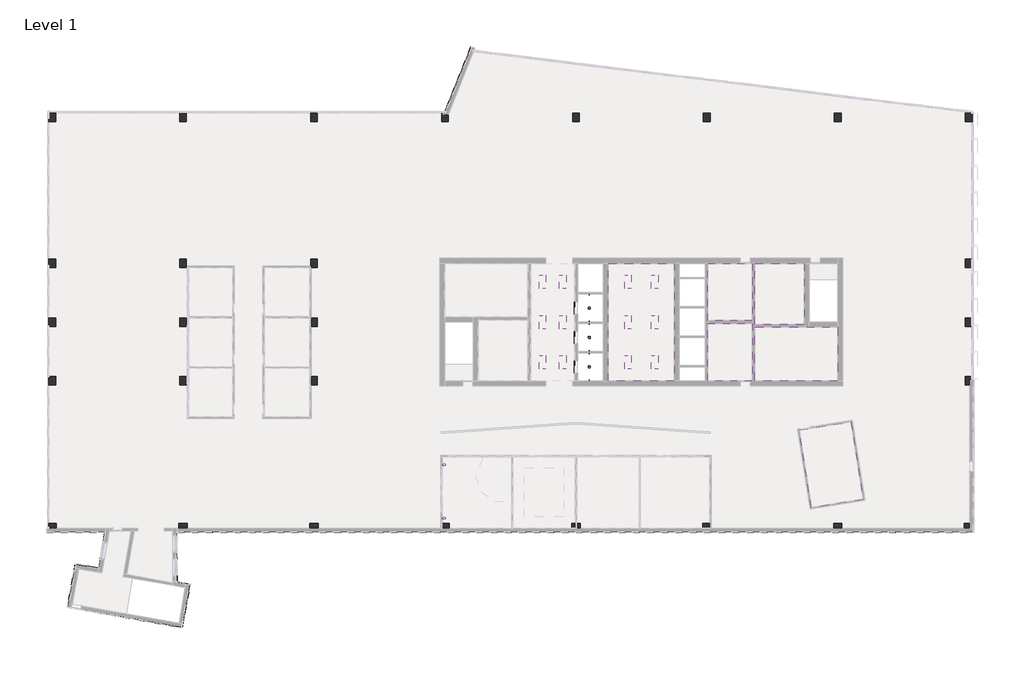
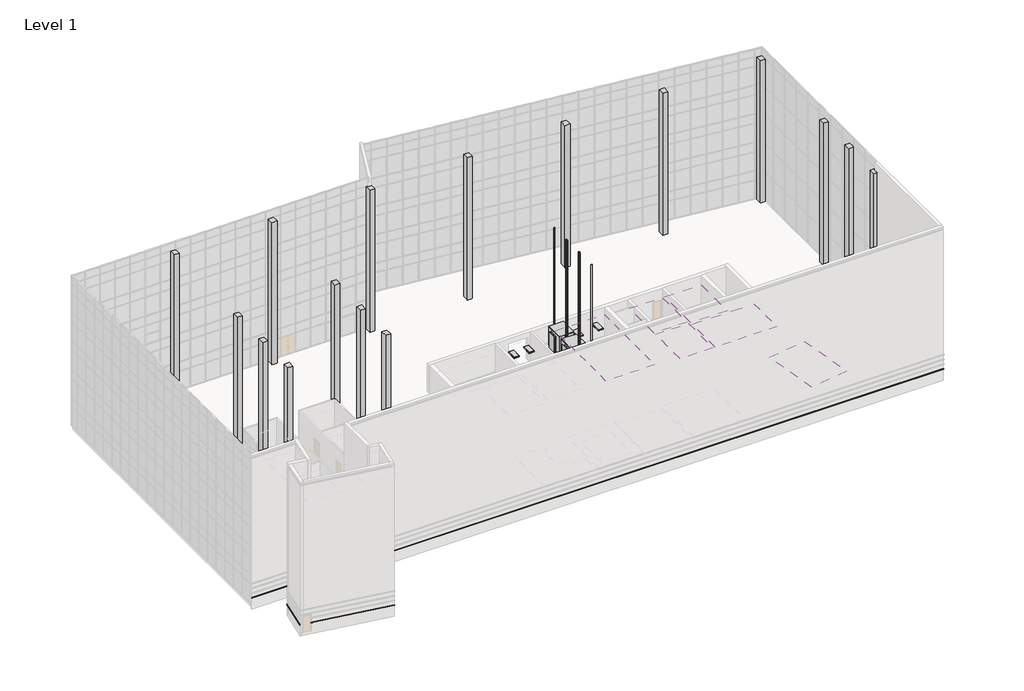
# One storey, part 23 of 23: 28 columns, 17 proxies, 14 light fixtures, 6 coverings.
"""IFC4 building model written with IfcOpenShell, lengths in millimetres."""

from ifc_helpers import new_model, si_unit, frame, origin, origin_with_axes, place, context, project, spatial, polyline, outline, extrude, faceted_brep, transform, mapped, element, save
from components import proxy_3500_lbs_8e23d717, proxy_7fed659c, concrete_rectangular_column_24_x_30_a0fa8d21, troffer_light_2x4_parabolic_2_x4_2_lamp_120v_ca384779, wall_lamp_bracket_100w_120v_72483117

model = new_model("IFC4")

# Units and contexts
model_context = context("Model", 3, world=origin())
ifc_project = project(units=[si_unit("LENGTHUNIT", "METRE", prefix="MILLI")], contexts=[model_context])

# Site, building, storey
site = spatial("IfcSite", under=ifc_project)
building = spatial("IfcBuilding", under=site)
storey = spatial("IfcBuildingStorey", under=building, Name="Level 1", Elevation=0.0)

# Proxies
placement = place(None, origin())
element("IfcBuildingElementProxy", 1, Name="Wall Sweeps", at=placement, inside=storey, context=model_context, shape_type="Brep", body=[
    faceted_brep([(15090.9304088, -27990.1353492, 1085.85), (15183.0054088, -28082.2103492, 1085.85), (15217.9304088, -28117.1353492, 1041.4), (15217.9304088, -28117.1353492, 1016.0), (15090.9304088, -27990.1353492, 1016.0), (-57168.1625003, -27990.1353492, 1085.85), (-57168.1625003, -27990.1353492, 1016.0), (-57041.1625003, -28117.1353492, 1016.0), (-57041.1625003, -28117.1353492, 1041.4), (-57076.0875003, -28082.2103492, 1085.85), (-57076.0875003, -27990.1353492, 1085.85), (-57076.0875003, -27990.1353492, 1016.0)], [[[0, 1, 2, 3, 4]], [[5, 6, 7, 8, 9]], [[1, 0, 10, 5, 9]], [[2, 1, 9, 8]], [[3, 2, 8, 7]], [[4, 3, 7, 6, 11]], [[0, 4, 11, 6, 5, 10]]]),
])
element("IfcBuildingElementProxy", 2, Name="Wall Sweeps", at=placement, inside=storey, context=model_context, shape_type="Brep", body=[
    faceted_brep([(-63907.0723883, -30506.6915786, 1085.85), (-63907.0723883, -30506.6915786, 1016.0), (-63997.7485622, -30490.7029226, 1016.0), (-64032.142973, -30484.63826, 1016.0), (-64032.142973, -30484.63826, 1041.4), (-63997.7485622, -30490.7029226, 1085.85), (-64081.0179385, -31493.1858149, 1085.85), (-64155.7054564, -31386.5209851, 1085.85), (-64184.0352046, -31346.0619117, 1041.4), (-64184.0352046, -31346.0619117, 1016.0), (-64081.0179385, -31493.1858149, 1016.0)], [[[0, 1, 2, 3, 4, 5]], [[6, 7, 8, 9, 10]], [[0, 5, 7, 6]], [[5, 4, 8, 7]], [[4, 3, 9, 8]], [[3, 2, 1, 10, 9]], [[1, 0, 6, 10]]]),
    faceted_brep([(-63463.3356266, -27990.1353492, 1085.85), (-63463.3356266, -27990.1353492, 1016.0), (-63614.6883329, -28117.1353492, 1016.0), (-63614.6883329, -28117.1353492, 1041.4), (-63573.0663387, -28082.2103492, 1085.85), (-63642.4325656, -29005.844563, 1085.85), (-63733.1087394, -28989.855907, 1085.85), (-63767.5031502, -28983.7912444, 1041.4), (-63767.5031502, -28983.7912444, 1016.0), (-63733.1087394, -28989.855907, 1016.0), (-63642.4325656, -29005.844563, 1016.0)], [[[0, 1, 2, 3, 4]], [[5, 6, 7, 8, 9, 10]], [[0, 4, 6, 5]], [[4, 3, 7, 6]], [[3, 2, 8, 7]], [[2, 1, 10, 9, 8]], [[1, 0, 5, 10]]]),
])
element("IfcBuildingElementProxy", 3, Name="Wall Sweeps", at=placement, inside=storey, context=model_context, shape_type="Brep", body=[
    faceted_brep([(-64081.0179385, -31493.1858149, 1085.85), (-64081.0179385, -31493.1858149, 1016.0), (-64184.0352046, -31346.0619117, 1016.0), (-64184.0352046, -31346.0619117, 1041.4), (-64155.7054564, -31386.5209851, 1085.85), (-66182.2037603, -31122.690063, 1085.85), (-66256.8912782, -31016.0252332, 1085.85), (-66285.2210264, -30975.5661598, 1041.4), (-66285.2210264, -30975.5661598, 1016.0), (-66182.2037603, -31122.690063, 1016.0), (-64171.6941124, -31477.1971589, 1085.85), (-64171.6941124, -31477.1971589, 1016.0)], [[[0, 1, 2, 3, 4]], [[5, 6, 7, 8, 9]], [[0, 4, 6, 5, 10]], [[4, 3, 7, 6]], [[3, 2, 8, 7]], [[2, 1, 11, 9, 8]], [[1, 0, 10, 5, 9, 11]]]),
])
element("IfcBuildingElementProxy", 4, Name="Wall Sweeps", at=placement, inside=storey, context=model_context, shape_type="Brep", body=[
    faceted_brep([(-66182.2037603, -31122.690063, 1085.85), (-66182.2037603, -31122.690063, 1016.0), (-66285.2210264, -30975.5661598, 1016.0), (-66285.2210264, -30975.5661598, 1041.4), (-66256.8912782, -31016.0252332, 1085.85), (-66854.2786436, -34934.2161297, 1085.85), (-66944.9548174, -34918.2274737, 1085.85), (-66979.3492282, -34912.1628111, 1041.4), (-66979.3492282, -34912.1628111, 1016.0), (-66944.9548174, -34918.2274737, 1016.0), (-66854.2786436, -34934.2161297, 1016.0), (-66227.4130634, -31379.0847615, 1085.85), (-66227.4130634, -31379.0847615, 1016.0)], [[[0, 1, 2, 3, 4]], [[5, 6, 7, 8, 9, 10]], [[0, 4, 6, 5, 11]], [[4, 3, 7, 6]], [[3, 2, 8, 7]], [[2, 1, 12, 10, 9, 8]], [[1, 0, 11, 5, 10, 12]]]),
])
element("IfcBuildingElementProxy", 5, Name="Wall Sweeps", at=placement, inside=storey, context=model_context, shape_type="Brep", body=[
    faceted_brep([(-65768.936489, -35032.0958295, 1085.85), (-65768.936489, -35032.0958295, 1016.0), (-65784.925145, -35122.7720034, 1016.0), (-65790.9898076, -35157.1664142, 1016.0), (-65790.9898076, -35157.1664142, 1041.4), (-65784.925145, -35122.7720034, 1085.85), (-56654.4176339, -36639.2314199, 1085.85), (-56579.730116, -36745.8962497, 1085.85), (-56551.4003678, -36786.3553231, 1041.4), (-56551.4003678, -36786.3553231, 1016.0), (-56654.4176339, -36639.2314199, 1016.0)], [[[0, 1, 2, 3, 4, 5]], [[6, 7, 8, 9, 10]], [[0, 5, 7, 6]], [[5, 4, 8, 7]], [[4, 3, 9, 8]], [[3, 2, 1, 10, 9]], [[1, 0, 6, 10]]]),
])
element("IfcBuildingElementProxy", 6, Name="Wall Sweeps", at=placement, inside=storey, context=model_context, shape_type="Brep", body=[
    faceted_brep([(-56654.4176339, -36639.2314199, 1085.85), (-56654.4176339, -36639.2314199, 1016.0), (-56551.4003678, -36786.3553231, 1016.0), (-56551.4003678, -36786.3553231, 1041.4), (-56579.730116, -36745.8962497, 1085.85), (-55998.3314066, -32918.3815271, 1085.85), (-55891.6665768, -32843.6940092, 1085.85), (-55851.2075034, -32815.364261, 1041.4), (-55851.2075034, -32815.364261, 1016.0), (-55998.3314066, -32918.3815271, 1016.0), (-56609.2083309, -36382.8367214, 1085.85), (-56609.2083309, -36382.8367214, 1016.0)], [[[0, 1, 2, 3, 4]], [[5, 6, 7, 8, 9]], [[0, 4, 6, 5, 10]], [[4, 3, 7, 6]], [[3, 2, 8, 7]], [[2, 1, 11, 9, 8]], [[1, 0, 10, 5, 9, 11]]]),
])
element("IfcBuildingElementProxy", 7, Name="Wall Sweeps", at=placement, inside=storey, context=model_context, shape_type="Brep", body=[
    faceted_brep([(-55998.3314066, -32918.3815271, 1085.85), (-55998.3314066, -32918.3815271, 1016.0), (-55851.2075034, -32815.364261, 1016.0), (-55851.2075034, -32815.364261, 1041.4), (-55891.6665768, -32843.6940092, 1085.85), (-57168.1625003, -32712.1087424, 1085.85), (-57076.0875003, -32634.8486438, 1085.85), (-57041.1625003, -32605.5430892, 1041.4), (-57041.1625003, -32605.5430892, 1016.0), (-57168.1625003, -32712.1087424, 1016.0), (-56254.7261051, -32873.172224, 1085.85), (-56254.7261051, -32873.172224, 1016.0)], [[[0, 1, 2, 3, 4]], [[5, 6, 7, 8, 9]], [[0, 4, 6, 5, 10]], [[4, 3, 7, 6]], [[3, 2, 8, 7]], [[2, 1, 11, 9, 8]], [[1, 0, 10, 5, 9, 11]]]),
])
element("IfcBuildingElementProxy", 8, Name="Wall Sweeps", at=placement, inside=storey, context=model_context, shape_type="Brep", body=[
    faceted_brep([(-57168.1625003, -28391.7728492, 1085.85), (-57168.1625003, -28391.7728492, 1016.0), (-57076.0875003, -28391.7728492, 1016.0), (-57041.1625003, -28391.7728492, 1016.0), (-57041.1625003, -28391.7728492, 1041.4), (-57076.0875003, -28391.7728492, 1085.85), (-57168.1625003, -27990.1353492, 1085.85), (-57076.0875003, -28082.2103492, 1085.85), (-57041.1625003, -28117.1353492, 1041.4), (-57041.1625003, -28117.1353492, 1016.0), (-57168.1625003, -27990.1353492, 1016.0)], [[[0, 1, 2, 3, 4, 5]], [[6, 7, 8, 9, 10]], [[0, 5, 7, 6]], [[5, 4, 8, 7]], [[4, 3, 9, 8]], [[3, 2, 1, 10, 9]], [[1, 0, 6, 10]]]),
    faceted_brep([(-57168.1625003, -30525.3728492, 1085.85), (-57168.1625003, -30525.3728492, 1016.0), (-57076.0875003, -30525.3728492, 1016.0), (-57041.1625003, -30525.3728492, 1016.0), (-57041.1625003, -30525.3728492, 1041.4), (-57076.0875003, -30525.3728492, 1085.85), (-57168.1625003, -29915.7728492, 1085.85), (-57076.0875003, -29915.7728492, 1085.85), (-57041.1625003, -29915.7728492, 1041.4), (-57041.1625003, -29915.7728492, 1016.0), (-57076.0875003, -29915.7728492, 1016.0), (-57168.1625003, -29915.7728492, 1016.0)], [[[0, 1, 2, 3, 4, 5]], [[6, 7, 8, 9, 10, 11]], [[0, 5, 7, 6]], [[5, 4, 8, 7]], [[4, 3, 9, 8]], [[3, 2, 1, 11, 10, 9]], [[1, 0, 6, 11]]]),
    faceted_brep([(-57168.1625003, -32712.1087424, 1085.85), (-57168.1625003, -32712.1087424, 1016.0), (-57041.1625003, -32605.5430892, 1016.0), (-57041.1625003, -32605.5430892, 1041.4), (-57076.0875003, -32634.8486438, 1085.85), (-57168.1625003, -32049.3728492, 1085.85), (-57076.0875003, -32049.3728492, 1085.85), (-57041.1625003, -32049.3728492, 1041.4), (-57041.1625003, -32049.3728492, 1016.0), (-57076.0875003, -32049.3728492, 1016.0), (-57168.1625003, -32049.3728492, 1016.0), (-57168.1625003, -32618.6133371, 1085.85), (-57168.1625003, -32618.6133371, 1016.0)], [[[0, 1, 2, 3, 4]], [[5, 6, 7, 8, 9, 10]], [[0, 4, 6, 5, 11]], [[4, 3, 7, 6]], [[3, 2, 8, 7]], [[2, 1, 12, 10, 9, 8]], [[1, 0, 11, 5, 10, 12]]]),
])
element("IfcBuildingElementProxy", 9, Name="Wall Sweeps", at=placement, inside=storey, context=model_context, shape_type="Brep", body=[
    faceted_brep([(-63463.3356266, -27990.1353492, 1085.85), (-63573.0663387, -28082.2103492, 1085.85), (-63614.6883329, -28117.1353492, 1041.4), (-63614.6883329, -28117.1353492, 1016.0), (-63463.3356266, -27990.1353492, 1016.0), (-68878.5489105, -27990.1353492, 1085.85), (-68878.5489105, -27990.1353492, 1016.0), (-68878.5489105, -28082.2103492, 1016.0), (-68878.5489105, -28117.1353492, 1016.0), (-68878.5489105, -28117.1353492, 1041.4), (-68878.5489105, -28082.2103492, 1085.85), (-63556.8310319, -27990.1353492, 1085.85), (-63556.8310319, -27990.1353492, 1016.0)], [[[0, 1, 2, 3, 4]], [[5, 6, 7, 8, 9, 10]], [[1, 0, 11, 5, 10]], [[2, 1, 10, 9]], [[3, 2, 9, 8]], [[4, 3, 8, 7, 6, 12]], [[0, 4, 12, 6, 5, 11]]]),
])
element("IfcBuildingElementProxy", 10, Name="Wall Sweeps", at=placement, inside=storey, context=model_context, shape_type="Brep", body=[
    faceted_brep([(-32762.8098895, 9770.5727487, 1085.85), (-32848.1803429, 9805.0646508, 1085.85), (-32880.5622391, 9818.1477861, 1041.4), (-32880.5622391, 9818.1477861, 1016.0), (-32762.8098895, 9770.5727487, 1016.0), (-30279.0815275, 15918.016165, 1085.85), (-30279.0815275, 15918.016165, 1016.0), (-30364.4519809, 15952.5080671, 1016.0), (-30396.833877, 15965.5912024, 1016.0), (-30396.833877, 15965.5912024, 1041.4), (-30364.4519809, 15952.5080671, 1085.85), (-32748.8742565, 9805.0646508, 1085.85), (-32748.8742565, 9805.0646508, 1016.0)], [[[0, 1, 2, 3, 4]], [[5, 6, 7, 8, 9, 10]], [[1, 0, 11, 5, 10]], [[2, 1, 10, 9]], [[3, 2, 9, 8]], [[4, 3, 8, 7, 6, 12]], [[0, 4, 12, 6, 5, 11]]]),
])
element("IfcBuildingElementProxy", 11, Name="Wall Sweeps", at=placement, inside=storey, context=model_context, shape_type="Brep", body=[
    faceted_brep([(15090.9304088, -14218.5728492, 1085.85), (15183.0054088, -14218.5728492, 1085.85), (15217.9304088, -14218.5728492, 1041.4), (15217.9304088, -14218.5728492, 1016.0), (15183.0054088, -14218.5728492, 1016.0), (15090.9304088, -14218.5728492, 1016.0), (15090.9304088, -21686.0488327, 1085.85), (15090.9304088, -21686.0488327, 1016.0), (15183.0054088, -21686.0488327, 1016.0), (15217.9304088, -21686.0488327, 1016.0), (15217.9304088, -21686.0488327, 1041.4), (15183.0054088, -21686.0488327, 1085.85)], [[[0, 1, 2, 3, 4, 5]], [[6, 7, 8, 9, 10, 11]], [[1, 0, 6, 11]], [[2, 1, 11, 10]], [[3, 2, 10, 9]], [[5, 4, 3, 9, 8, 7]], [[0, 5, 7, 6]]]),
    faceted_brep([(15090.9304088, -22600.4488327, 1085.85), (15183.0054088, -22600.4488327, 1085.85), (15217.9304088, -22600.4488327, 1041.4), (15217.9304088, -22600.4488327, 1016.0), (15183.0054088, -22600.4488327, 1016.0), (15090.9304088, -22600.4488327, 1016.0), (15090.9304088, -27990.1353492, 1085.85), (15090.9304088, -27990.1353492, 1016.0), (15217.9304088, -28117.1353492, 1016.0), (15217.9304088, -28117.1353492, 1041.4), (15183.0054088, -28082.2103492, 1085.85), (15090.9304088, -27729.7853492, 1085.85), (15090.9304088, -27729.7853492, 1016.0)], [[[0, 1, 2, 3, 4, 5]], [[6, 7, 8, 9, 10]], [[1, 0, 11, 6, 10]], [[2, 1, 10, 9]], [[3, 2, 9, 8]], [[5, 4, 3, 8, 7, 12]], [[0, 5, 12, 7, 6, 11]]]),
])
proxy_3500_lbs_shape = proxy_3500_lbs_8e23d717(model_context)
element("IfcBuildingElementProxy", 12, Name="Elevator-Hydraulic[1] : 3500 lbs", ObjectType="Elevator-Hydraulic[1] : 3500 lbs", at=placement, inside=storey, context=model_context, shape_type="MappedRepresentation", body=[
    mapped(proxy_3500_lbs_shape, transform((-19661.1503332, -13088.7633527, 0.0), x_axis=(0.0, -1.0, 0.0), y_axis=(1.0, 0.0, 0.0), z_axis=(0.0, 0.0, 1.0))),
])
element("IfcBuildingElementProxy", 13, Name="Elevator-Hydraulic[1] : 3500 lbs", ObjectType="Elevator-Hydraulic[1] : 3500 lbs", at=placement, inside=storey, context=model_context, shape_type="MappedRepresentation", body=[
    mapped(proxy_3500_lbs_shape, transform((-19661.1503332, -10421.7633527, 0.0), x_axis=(0.0, -1.0, 0.0), y_axis=(1.0, 0.0, 0.0), z_axis=(0.0, 0.0, 1.0))),
])
element("IfcBuildingElementProxy", 14, Name="Elevator-Hydraulic[1] : 3500 lbs", ObjectType="Elevator-Hydraulic[1] : 3500 lbs", at=placement, inside=storey, context=model_context, shape_type="MappedRepresentation", body=[
    mapped(proxy_3500_lbs_shape, transform((-19661.1503332, -7754.7633527, 0.0), x_axis=(0.0, -1.0, 0.0), y_axis=(1.0, 0.0, 0.0), z_axis=(0.0, 0.0, 1.0))),
])
proxy_shape = proxy_7fed659c(model_context)
element("IfcBuildingElementProxy", 15, Name="Elevator%20Door-Center[1] : 42\" x 84\"", ObjectType="Elevator%20Door-Center[1] : 42\" x 84\"", at=placement, inside=storey, context=model_context, shape_type="MappedRepresentation", body=[
    mapped(proxy_shape, transform((-20852.1285069, -7663.0747049, 0.0), x_axis=(0.0, 1.0, 0.0), y_axis=(-1.0, 0.0, 0.0), z_axis=(0.0, 0.0, 1.0))),
])
element("IfcBuildingElementProxy", 16, Name="Elevator%20Door-Center[1] : 42\" x 84\"", ObjectType="Elevator%20Door-Center[1] : 42\" x 84\"", at=placement, inside=storey, context=model_context, shape_type="MappedRepresentation", body=[
    mapped(proxy_shape, transform((-20852.1285069, -10330.0747049, 0.0), x_axis=(0.0, 1.0, 0.0), y_axis=(-1.0, 0.0, 0.0), z_axis=(0.0, 0.0, 1.0))),
])
element("IfcBuildingElementProxy", 17, Name="Elevator%20Door-Center[1] : 42\" x 84\"", ObjectType="Elevator%20Door-Center[1] : 42\" x 84\"", at=placement, inside=storey, context=model_context, shape_type="MappedRepresentation", body=[
    mapped(proxy_shape, transform((-20852.1285069, -12997.0747049, 0.0), x_axis=(0.0, 1.0, 0.0), y_axis=(-1.0, 0.0, 0.0), z_axis=(0.0, 0.0, 1.0))),
])

# Columns
element("IfcColumn", 18, ObjectType="Concrete-Rectangular-Column : 24 x 30", at=placement, inside=storey, context=model_context, shape_type="SweptSolid", body=[
    extrude(outline(polyline([(15045.3286359, -13985.2103492), (15045.3286359, -14747.2103492), (14435.7286359, -14747.2103492), (14435.7286359, -13985.2103492), (15045.3286359, -13985.2103492)])), origin_with_axes(), (0.0, 0.0, 1.0), 18288.0),
])
element("IfcColumn", 19, ObjectType="Concrete-Rectangular-Column : 24 x 30", at=placement, inside=storey, context=model_context, shape_type="SweptSolid", body=[
    extrude(outline(polyline([(15045.3286359, -8651.2103492), (15045.3286359, -9413.2103492), (14435.7286359, -9413.2103492), (14435.7286359, -8651.2103492), (15045.3286359, -8651.2103492)])), origin_with_axes(), (0.0, 0.0, 1.0), 18288.0),
])
element("IfcColumn", 20, ObjectType="Concrete-Rectangular-Column : 24 x 30", at=placement, inside=storey, context=model_context, shape_type="SweptSolid", body=[
    extrude(outline(polyline([(15045.3286359, -3317.2103492), (15045.3286359, -4079.2103492), (14435.7286359, -4079.2103492), (14435.7286359, -3317.2103492), (15045.3286359, -3317.2103492)])), origin_with_axes(), (0.0, 0.0, 1.0), 18288.0),
])
element("IfcColumn", 21, ObjectType="Concrete-Rectangular-Column : 24 x 30", at=placement, inside=storey, context=model_context, shape_type="SweptSolid", body=[
    extrude(outline(polyline([(-68063.4713641, -13985.2103492), (-68063.4713641, -14747.2103492), (-68673.0713641, -14747.2103492), (-68673.0713641, -13985.2103492), (-68063.4713641, -13985.2103492)])), origin_with_axes(), (0.0, 0.0, 1.0), 18288.0),
])
element("IfcColumn", 22, ObjectType="Concrete-Rectangular-Column : 24 x 30", at=placement, inside=storey, context=model_context, shape_type="SweptSolid", body=[
    extrude(outline(polyline([(-68063.4713641, -8651.2103492), (-68063.4713641, -9413.2103492), (-68673.0713641, -9413.2103492), (-68673.0713641, -8651.2103492), (-68063.4713641, -8651.2103492)])), origin_with_axes(), (0.0, 0.0, 1.0), 18288.0),
])
element("IfcColumn", 23, ObjectType="Concrete-Rectangular-Column : 24 x 30", at=placement, inside=storey, context=model_context, shape_type="SweptSolid", body=[
    extrude(outline(polyline([(-68063.4713641, -3317.2103492), (-68063.4713641, -4079.2103492), (-68673.0713641, -4079.2103492), (-68673.0713641, -3317.2103492), (-68063.4713641, -3317.2103492)])), origin_with_axes(), (0.0, 0.0, 1.0), 18288.0),
])
element("IfcColumn", 24, ObjectType="Concrete-Rectangular-Column : 24 x 30", at=placement, inside=storey, context=model_context, shape_type="SweptSolid", body=[
    extrude(outline(polyline([(14435.7286359, 9154.1896508), (14435.7286359, 9916.1896508), (15045.3286359, 9916.1896508), (15045.3286359, 9154.1896508), (14435.7286359, 9154.1896508)])), origin_with_axes(), (0.0, 0.0, 1.0), 18288.0),
])
element("IfcColumn", 25, ObjectType="Concrete-Rectangular-Column : 24 x 30", at=placement, inside=storey, context=model_context, shape_type="SweptSolid", body=[
    extrude(outline(polyline([(-68673.0713641, 9154.1896508), (-68673.0713641, 9916.1896508), (-68063.4713641, 9916.1896508), (-68063.4713641, 9154.1896508), (-68673.0713641, 9154.1896508)])), origin_with_axes(), (0.0, 0.0, 1.0), 18288.0),
])
element("IfcColumn", 26, ObjectType="Concrete-Rectangular-Column : 24 x 30", at=placement, inside=storey, context=model_context, shape_type="SweptSolid", body=[
    extrude(outline(polyline([(2563.0429217, 9154.1896508), (2563.0429217, 9916.1896508), (3172.6429217, 9916.1896508), (3172.6429217, 9154.1896508), (2563.0429217, 9154.1896508)])), origin_with_axes(), (0.0, 0.0, 1.0), 18288.0),
])
element("IfcColumn", 27, ObjectType="Concrete-Rectangular-Column : 24 x 30", at=placement, inside=storey, context=model_context, shape_type="SweptSolid", body=[
    extrude(outline(polyline([(-9309.6427926, 9154.1896508), (-9309.6427926, 9916.1896508), (-8700.0427926, 9916.1896508), (-8700.0427926, 9154.1896508), (-9309.6427926, 9154.1896508)])), origin_with_axes(), (0.0, 0.0, 1.0), 18288.0),
])
element("IfcColumn", 28, ObjectType="Concrete-Rectangular-Column : 24 x 30", at=placement, inside=storey, context=model_context, shape_type="SweptSolid", body=[
    extrude(outline(polyline([(-21182.3285069, 9154.1896508), (-21182.3285069, 9916.1896508), (-20572.7285069, 9916.1896508), (-20572.7285069, 9154.1896508), (-21182.3285069, 9154.1896508)])), origin_with_axes(), (0.0, 0.0, 1.0), 18288.0),
])
element("IfcColumn", 29, ObjectType="Concrete-Rectangular-Column : 24 x 30", at=placement, inside=storey, context=model_context, shape_type="SweptSolid", body=[
    extrude(outline(polyline([(-33055.0142212, 9154.1896508), (-33055.0142212, 9916.1896508), (-32445.4142212, 9916.1896508), (-32445.4142212, 9154.1896508), (-33055.0142212, 9154.1896508)])), origin_with_axes(), (0.0, 0.0, 1.0), 18288.0),
])
element("IfcColumn", 30, ObjectType="Concrete-Rectangular-Column : 24 x 30", at=placement, inside=storey, context=model_context, shape_type="SweptSolid", body=[
    extrude(outline(polyline([(-44927.6999355, 9154.1896508), (-44927.6999355, 9916.1896508), (-44318.0999355, 9916.1896508), (-44318.0999355, 9154.1896508), (-44927.6999355, 9154.1896508)])), origin_with_axes(), (0.0, 0.0, 1.0), 18288.0),
])
element("IfcColumn", 31, ObjectType="Concrete-Rectangular-Column : 24 x 30", at=placement, inside=storey, context=model_context, shape_type="SweptSolid", body=[
    extrude(outline(polyline([(-56800.3856498, 9154.1896508), (-56800.3856498, 9916.1896508), (-56190.7856498, 9916.1896508), (-56190.7856498, 9154.1896508), (-56800.3856498, 9154.1896508)])), origin_with_axes(), (0.0, 0.0, 1.0), 18288.0),
])
element("IfcColumn", 32, ObjectType="Concrete-Rectangular-Column : 24 x 30", at=placement, inside=storey, context=model_context, shape_type="SweptSolid", body=[
    extrude(outline(polyline([(14359.5286359, -27294.8103492), (15121.5286359, -27294.8103492), (15121.5286359, -27904.4103492), (14359.5286359, -27904.4103492), (14359.5286359, -27294.8103492)])), origin_with_axes(), (0.0, 0.0, 1.0), 18288.0),
])
element("IfcColumn", 33, ObjectType="Concrete-Rectangular-Column : 24 x 30", at=placement, inside=storey, context=model_context, shape_type="SweptSolid", body=[
    extrude(outline(polyline([(-68749.2713641, -27294.8103492), (-67987.2713641, -27294.8103492), (-67987.2713641, -27904.4103492), (-68749.2713641, -27904.4103492), (-68749.2713641, -27294.8103492)])), origin_with_axes(), (0.0, 0.0, 1.0), 18288.0),
])
element("IfcColumn", 34, ObjectType="Concrete-Rectangular-Column : 24 x 30", at=placement, inside=storey, context=model_context, shape_type="SweptSolid", body=[
    extrude(outline(polyline([(2486.8429217, -27294.8103492), (3248.8429217, -27294.8103492), (3248.8429217, -27904.4103492), (2486.8429217, -27904.4103492), (2486.8429217, -27294.8103492)])), origin_with_axes(), (0.0, 0.0, 1.0), 18288.0),
])
element("IfcColumn", 35, ObjectType="Concrete-Rectangular-Column : 24 x 30", at=placement, inside=storey, context=model_context, shape_type="SweptSolid", body=[
    extrude(outline(polyline([(-9385.8427926, -27294.8103492), (-8623.8427926, -27294.8103492), (-8623.8427926, -27904.4103492), (-9385.8427926, -27904.4103492), (-9385.8427926, -27294.8103492)])), origin_with_axes(), (0.0, 0.0, 1.0), 18288.0),
])
element("IfcColumn", 36, ObjectType="Concrete-Rectangular-Column : 24 x 30", at=placement, inside=storey, context=model_context, shape_type="SweptSolid", body=[
    extrude(outline(polyline([(-21258.5285069, -27294.8103492), (-20496.5285069, -27294.8103492), (-20496.5285069, -27904.4103492), (-21258.5285069, -27904.4103492), (-21258.5285069, -27294.8103492)])), origin_with_axes(), (0.0, 0.0, 1.0), 18288.0),
])
element("IfcColumn", 37, ObjectType="Concrete-Rectangular-Column : 24 x 30", at=placement, inside=storey, context=model_context, shape_type="SweptSolid", body=[
    extrude(outline(polyline([(-33131.2142212, -27294.8103492), (-32369.2142212, -27294.8103492), (-32369.2142212, -27904.4103492), (-33131.2142212, -27904.4103492), (-33131.2142212, -27294.8103492)])), origin_with_axes(), (0.0, 0.0, 1.0), 18288.0),
])
element("IfcColumn", 38, ObjectType="Concrete-Rectangular-Column : 24 x 30", at=placement, inside=storey, context=model_context, shape_type="SweptSolid", body=[
    extrude(outline(polyline([(-45003.8999355, -27294.8103492), (-44241.8999355, -27294.8103492), (-44241.8999355, -27904.4103492), (-45003.8999355, -27904.4103492), (-45003.8999355, -27294.8103492)])), origin_with_axes(), (0.0, 0.0, 1.0), 18288.0),
])
element("IfcColumn", 39, ObjectType="Concrete-Rectangular-Column : 24 x 30", at=placement, inside=storey, context=model_context, shape_type="SweptSolid", body=[
    extrude(outline(polyline([(-56876.5856498, -27294.8103492), (-56114.5856498, -27294.8103492), (-56114.5856498, -27904.4103492), (-56876.5856498, -27904.4103492), (-56876.5856498, -27294.8103492)])), origin_with_axes(), (0.0, 0.0, 1.0), 18288.0),
])
concrete_rectangular_column_24_x_30_shape = concrete_rectangular_column_24_x_30_a0fa8d21(model_context)
element("IfcColumn", 40, ObjectType="Concrete-Rectangular-Column : 24 x 30", at=placement, inside=storey, context=model_context, shape_type="MappedRepresentation", body=[
    mapped(concrete_rectangular_column_24_x_30_shape, transform((-44622.8999355, -14366.2103492, 0.0), x_axis=(1.0, 0.0, 0.0), y_axis=(0.0, 1.0, 0.0), z_axis=(0.0, 0.0, 1.0))),
])
element("IfcColumn", 41, ObjectType="Concrete-Rectangular-Column : 24 x 30", at=placement, inside=storey, context=model_context, shape_type="MappedRepresentation", body=[
    mapped(concrete_rectangular_column_24_x_30_shape, transform((-56495.5856498, -14366.2103492, 0.0), x_axis=(1.0, 0.0, 0.0), y_axis=(0.0, 1.0, 0.0), z_axis=(0.0, 0.0, 1.0))),
])
element("IfcColumn", 42, ObjectType="Concrete-Rectangular-Column : 24 x 30", at=placement, inside=storey, context=model_context, shape_type="MappedRepresentation", body=[
    mapped(concrete_rectangular_column_24_x_30_shape, transform((-44622.8999355, -9032.2103492, 0.0), x_axis=(1.0, 0.0, 0.0), y_axis=(0.0, 1.0, 0.0), z_axis=(0.0, 0.0, 1.0))),
])
element("IfcColumn", 43, ObjectType="Concrete-Rectangular-Column : 24 x 30", at=placement, inside=storey, context=model_context, shape_type="MappedRepresentation", body=[
    mapped(concrete_rectangular_column_24_x_30_shape, transform((-56495.5856498, -9032.2103492, 0.0), x_axis=(1.0, 0.0, 0.0), y_axis=(0.0, 1.0, 0.0), z_axis=(0.0, 0.0, 1.0))),
])
element("IfcColumn", 44, ObjectType="Concrete-Rectangular-Column : 24 x 30", at=placement, inside=storey, context=model_context, shape_type="MappedRepresentation", body=[
    mapped(concrete_rectangular_column_24_x_30_shape, transform((-44622.8999355, -3698.2103492, 0.0), x_axis=(1.0, 0.0, 0.0), y_axis=(0.0, 1.0, 0.0), z_axis=(0.0, 0.0, 1.0))),
])
element("IfcColumn", 45, ObjectType="Concrete-Rectangular-Column : 24 x 30", at=placement, inside=storey, context=model_context, shape_type="MappedRepresentation", body=[
    mapped(concrete_rectangular_column_24_x_30_shape, transform((-56495.5856498, -3698.2103492, 0.0), x_axis=(1.0, 0.0, 0.0), y_axis=(0.0, 1.0, 0.0), z_axis=(0.0, 0.0, 1.0))),
])

# Coverings
element("IfcCovering", 46, ObjectType="2' x 4' ACT System", at=placement, inside=storey, context=model_context, shape_type="SweptSolid", body=[
    extrude(outline(polyline([(5175.4713993, -25116.831377), (484.1493191, -25859.8637991), (-629.14639, -18830.7913293), (4062.1756902, -18087.7589073), (5175.4713993, -25116.831377)])), frame((0.0, 0.0, 2438.4), z_axis=(0.0, 0.0, 1.0), x_axis=(1.0, 0.0, 0.0)), (0.0, 0.0, 1.0), 57.15),
])
element("IfcCovering", 47, ObjectType="2' x 4' ACT System", at=placement, inside=storey, context=model_context, shape_type="SweptSolid", body=[
    extrude(outline(polyline([(2867.8429217, -14366.2103492), (-4636.0427926, -14366.2103492), (-4636.0427926, -9489.4103492), (55.7000645, -9489.4103492), (2867.8429217, -9489.4103492), (2867.8429217, -14366.2103492)])), frame((0.0, 0.0, 2438.4), z_axis=(0.0, 0.0, 1.0), x_axis=(1.0, 0.0, 0.0)), (0.0, 0.0, 1.0), 57.15),
])
element("IfcCovering", 48, ObjectType="2' x 4' ACT System", at=placement, inside=storey, context=model_context, shape_type="SweptSolid", body=[
    extrude(outline(polyline([(-4636.0427926, -3698.2103492), (-172.8999355, -3698.2103492), (-172.8999355, -9235.4103492), (-4636.0427926, -9235.4103492), (-4636.0427926, -3698.2103492)])), frame((0.0, 0.0, 2438.4), z_axis=(0.0, 0.0, 1.0), x_axis=(1.0, 0.0, 0.0)), (0.0, 0.0, 1.0), 57.15),
])
element("IfcCovering", 49, ObjectType="2' x 4' ACT System", at=placement, inside=storey, context=model_context, shape_type="SweptSolid", body=[
    extrude(outline(polyline([(-8903.2427926, -3698.2103492), (-4890.0427926, -3698.2103492), (-4890.0427926, -8905.2103492), (-8903.2427926, -8905.2103492), (-8903.2427926, -3698.2103492)])), frame((0.0, 0.0, 2438.4), z_axis=(0.0, 0.0, 1.0), x_axis=(1.0, 0.0, 0.0)), (0.0, 0.0, 1.0), 57.15),
])
element("IfcCovering", 50, ObjectType="2' x 4' ACT System", at=placement, inside=storey, context=model_context, shape_type="SweptSolid", body=[
    extrude(outline(polyline([(-4890.0427926, -9159.2103492), (-4890.0427926, -14366.2103492), (-8903.2427926, -14366.2103492), (-8903.2427926, -9159.2103492), (-4890.0427926, -9159.2103492)])), frame((0.0, 0.0, 2438.4), z_axis=(0.0, 0.0, 1.0), x_axis=(1.0, 0.0, 0.0)), (0.0, 0.0, 1.0), 57.15),
])
element("IfcCovering", 51, ObjectType="2' x 4' ACT System", at=placement, inside=storey, context=model_context, shape_type="SweptSolid", body=[
    extrude(outline(polyline([(-11954.4428559, -14366.2103492), (-17927.9284437, -14366.2103492), (-17927.9284437, -3698.2103492), (-11954.4428559, -3698.2103492), (-11954.4428559, -14366.2103492)]), holes=[polyline([(-15855.5856498, -13299.4103492), (-15855.5856498, -12080.2103492), (-16465.1856498, -12080.2103492), (-16465.1856498, -13299.4103492), (-15855.5856498, -13299.4103492)]), polyline([(-15855.5856498, -9641.8103492), (-15855.5856498, -8422.6103492), (-16465.1856498, -8422.6103492), (-16465.1856498, -9641.8103492), (-15855.5856498, -9641.8103492)]), polyline([(-15855.5856498, -5984.2103492), (-15855.5856498, -4765.0103492), (-16465.1856498, -4765.0103492), (-16465.1856498, -5984.2103492), (-15855.5856498, -5984.2103492)]), polyline([(-13417.1856498, -13299.4103492), (-13417.1856498, -12080.2103492), (-14026.7856498, -12080.2103492), (-14026.7856498, -13299.4103492), (-13417.1856498, -13299.4103492)]), polyline([(-13417.1856498, -9641.8103492), (-13417.1856498, -8422.6103492), (-14026.7856498, -8422.6103492), (-14026.7856498, -9641.8103492), (-13417.1856498, -9641.8103492)]), polyline([(-13417.1856498, -5984.2103492), (-13417.1856498, -4765.0103492), (-14026.7856498, -4765.0103492), (-14026.7856498, -5984.2103492), (-13417.1856498, -5984.2103492)])]), frame((0.0, 0.0, 2743.2), z_axis=(0.0, 0.0, 1.0), x_axis=(1.0, 0.0, 0.0)), (0.0, 0.0, 1.0), 57.15),
])

# Light fixtures
troffer_light_2x4_parabolic_2_x4_2_lamp_120v_shape = troffer_light_2x4_parabolic_2_x4_2_lamp_120v_ca384779(model_context)
element("IfcLightFixture", 52, ObjectType="Troffer Light - 2x4 Parabolic : 2'x4'(2 Lamp) - 120V", at=placement, inside=storey, context=model_context, shape_type="MappedRepresentation", body=[
    mapped(troffer_light_2x4_parabolic_2_x4_2_lamp_120v_shape, transform((-16100.9197177, -12708.5138508, 304.8), x_axis=(0.0, -1.0, 0.0), y_axis=(1.0, 0.0, 0.0), z_axis=(0.0, 0.0, 1.0))),
])
element("IfcLightFixture", 53, ObjectType="Troffer Light - 2x4 Parabolic : 2'x4'(2 Lamp) - 120V", at=placement, inside=storey, context=model_context, shape_type="MappedRepresentation", body=[
    mapped(troffer_light_2x4_parabolic_2_x4_2_lamp_120v_shape, transform((-16100.9197177, -9050.9138508, 304.8), x_axis=(0.0, -1.0, 0.0), y_axis=(1.0, 0.0, 0.0), z_axis=(0.0, 0.0, 1.0))),
])
element("IfcLightFixture", 54, ObjectType="Troffer Light - 2x4 Parabolic : 2'x4'(2 Lamp) - 120V", at=placement, inside=storey, context=model_context, shape_type="MappedRepresentation", body=[
    mapped(troffer_light_2x4_parabolic_2_x4_2_lamp_120v_shape, transform((-16100.9197177, -5393.3138508, 304.8), x_axis=(0.0, -1.0, 0.0), y_axis=(1.0, 0.0, 0.0), z_axis=(0.0, 0.0, 1.0))),
])
element("IfcLightFixture", 55, ObjectType="Troffer Light - 2x4 Parabolic : 2'x4'(2 Lamp) - 120V", at=placement, inside=storey, context=model_context, shape_type="MappedRepresentation", body=[
    mapped(troffer_light_2x4_parabolic_2_x4_2_lamp_120v_shape, transform((-13662.5197177, -12708.5138508, 304.8), x_axis=(0.0, -1.0, 0.0), y_axis=(1.0, 0.0, 0.0), z_axis=(0.0, 0.0, 1.0))),
])
element("IfcLightFixture", 56, ObjectType="Troffer Light - 2x4 Parabolic : 2'x4'(2 Lamp) - 120V", at=placement, inside=storey, context=model_context, shape_type="MappedRepresentation", body=[
    mapped(troffer_light_2x4_parabolic_2_x4_2_lamp_120v_shape, transform((-13662.5197177, -9050.9138508, 304.8), x_axis=(0.0, -1.0, 0.0), y_axis=(1.0, 0.0, 0.0), z_axis=(0.0, 0.0, 1.0))),
])
element("IfcLightFixture", 57, ObjectType="Troffer Light - 2x4 Parabolic : 2'x4'(2 Lamp) - 120V", at=placement, inside=storey, context=model_context, shape_type="MappedRepresentation", body=[
    mapped(troffer_light_2x4_parabolic_2_x4_2_lamp_120v_shape, transform((-13662.5197177, -5393.3138508, 304.8), x_axis=(0.0, -1.0, 0.0), y_axis=(1.0, 0.0, 0.0), z_axis=(0.0, 0.0, 1.0))),
])
element("IfcLightFixture", 58, ObjectType="Troffer Light - 2x4 Parabolic : 2'x4'(2 Lamp) - 120V", at=placement, inside=storey, context=model_context, shape_type="MappedRepresentation", body=[
    mapped(troffer_light_2x4_parabolic_2_x4_2_lamp_120v_shape, transform((-22011.8625748, -12708.5138508, 304.8), x_axis=(0.0, -1.0, 0.0), y_axis=(1.0, 0.0, 0.0), z_axis=(0.0, 0.0, 1.0))),
])
element("IfcLightFixture", 59, ObjectType="Troffer Light - 2x4 Parabolic : 2'x4'(2 Lamp) - 120V", at=placement, inside=storey, context=model_context, shape_type="MappedRepresentation", body=[
    mapped(troffer_light_2x4_parabolic_2_x4_2_lamp_120v_shape, transform((-23840.6625748, -12708.5138508, 304.8), x_axis=(0.0, -1.0, 0.0), y_axis=(1.0, 0.0, 0.0), z_axis=(0.0, 0.0, 1.0))),
])
element("IfcLightFixture", 60, ObjectType="Troffer Light - 2x4 Parabolic : 2'x4'(2 Lamp) - 120V", at=placement, inside=storey, context=model_context, shape_type="MappedRepresentation", body=[
    mapped(troffer_light_2x4_parabolic_2_x4_2_lamp_120v_shape, transform((-22011.8625748, -9050.9138508, 304.8), x_axis=(0.0, -1.0, 0.0), y_axis=(1.0, 0.0, 0.0), z_axis=(0.0, 0.0, 1.0))),
])
element("IfcLightFixture", 61, ObjectType="Troffer Light - 2x4 Parabolic : 2'x4'(2 Lamp) - 120V", at=placement, inside=storey, context=model_context, shape_type="MappedRepresentation", body=[
    mapped(troffer_light_2x4_parabolic_2_x4_2_lamp_120v_shape, transform((-23840.6625748, -9050.9138508, 304.8), x_axis=(0.0, -1.0, 0.0), y_axis=(1.0, 0.0, 0.0), z_axis=(0.0, 0.0, 1.0))),
])
element("IfcLightFixture", 62, ObjectType="Troffer Light - 2x4 Parabolic : 2'x4'(2 Lamp) - 120V", at=placement, inside=storey, context=model_context, shape_type="MappedRepresentation", body=[
    mapped(troffer_light_2x4_parabolic_2_x4_2_lamp_120v_shape, transform((-22011.8625748, -5393.3138508, 304.8), x_axis=(0.0, -1.0, 0.0), y_axis=(1.0, 0.0, 0.0), z_axis=(0.0, 0.0, 1.0))),
])
element("IfcLightFixture", 63, ObjectType="Troffer Light - 2x4 Parabolic : 2'x4'(2 Lamp) - 120V", at=placement, inside=storey, context=model_context, shape_type="MappedRepresentation", body=[
    mapped(troffer_light_2x4_parabolic_2_x4_2_lamp_120v_shape, transform((-23840.6625748, -5393.3138508, 304.8), x_axis=(0.0, -1.0, 0.0), y_axis=(1.0, 0.0, 0.0), z_axis=(0.0, 0.0, 1.0))),
])
wall_lamp_bracket_100w_120v_shape = wall_lamp_bracket_100w_120v_72483117(model_context)
element("IfcLightFixture", 64, ObjectType="Wall Lamp - Bracket : 100W - 120V", at=placement, inside=storey, context=model_context, shape_type="MappedRepresentation", body=[
    mapped(wall_lamp_bracket_100w_120v_shape, transform((-33067.7142212, -26875.5535119, -254.0), x_axis=(0.0, -1.0, 0.0), y_axis=(1.0, 0.0, 0.0), z_axis=(0.0, 0.0, 1.0))),
])
element("IfcLightFixture", 65, ObjectType="Wall Lamp - Bracket : 100W - 120V", at=placement, inside=storey, context=model_context, shape_type="MappedRepresentation", body=[
    mapped(wall_lamp_bracket_100w_120v_shape, transform((-33067.7142212, -22024.1535119, -254.0), x_axis=(0.0, -1.0, 0.0), y_axis=(1.0, 0.0, 0.0), z_axis=(0.0, 0.0, 1.0))),
])

save(model, "model.ifc")
